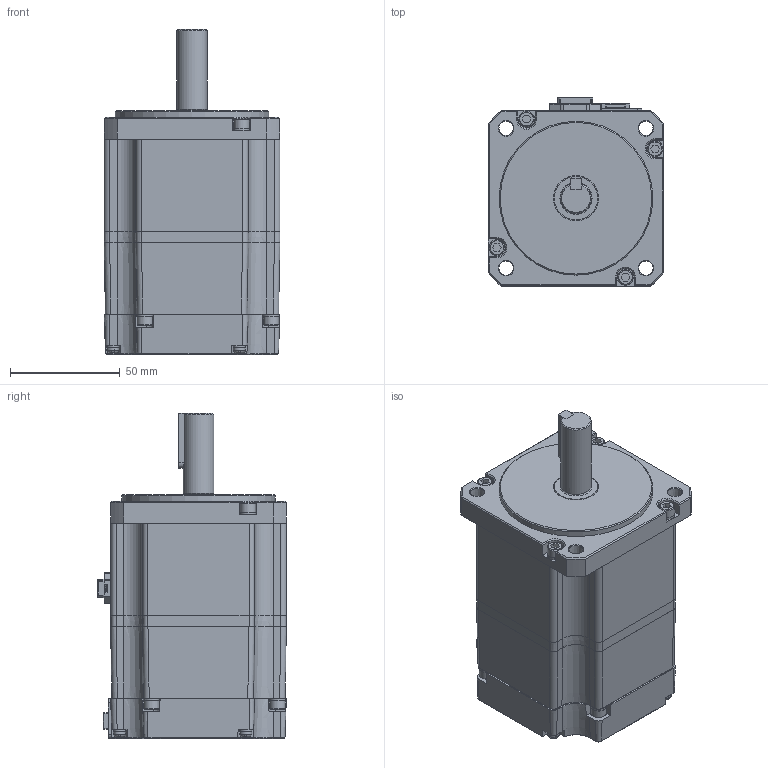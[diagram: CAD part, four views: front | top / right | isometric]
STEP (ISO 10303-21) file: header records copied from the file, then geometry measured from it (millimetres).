
FILE_DESCRIPTION (( 'STEP AP214' ), '1' );
FILE_NAME ('EM08GA002G01_Out Line(APM-EC04AM3K2).STEP', '2022-11-03T09:30:33', ( '' ), ( '' ), 'SwSTEP 2.0', 'SolidWorks 2021', '' );
FILE_SCHEMA (( 'AUTOMOTIVE_DESIGN' ));
Length unit declared in the file: millimetre
Products named in the file (1): EM08GA002G01_Out Line(APM-EC04AM3K2)
Bounding box: 80 x 85.9 x 148 mm (x, y, z)
Volume: 622324.2 mm3; surface area: 108562 mm2
Topology: 35 solids, 35 shells, 1580 faces, 3950 edges, 2508 vertices
Faces by surface type: plane 1126, cylinder 236, cone 144, torus 31, bspline 29, sphere 14
Full cylindrical faces by diameter (mm): 1.589 x1, 1.6 x9, 2 x2, 2.1 x2, 2.5 x8, 3 x8, 3.3 x8, 4 x12, 4.5 x8, 5.4 x8, 7 x8, 7.2 x8, 14 x1, 19.8 x1, 20.6 x1, 70 x1
Entity records: 64651 total; most frequent: CARTESIAN_POINT 10264, ORIENTED_EDGE 7488, DIRECTION 7199, EDGE_CURVE 3744, LINE 2769, VECTOR 2769, VERTEX_POINT 2461, AXIS2_PLACEMENT_3D 2215
